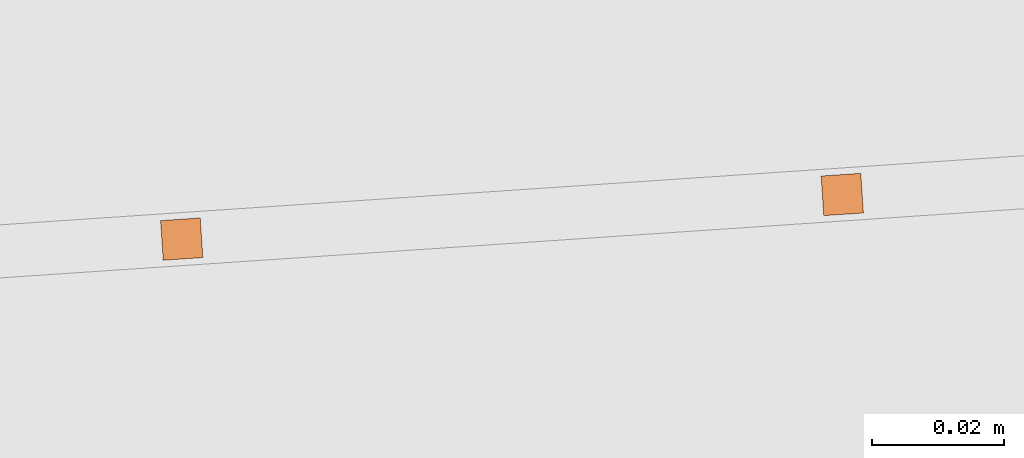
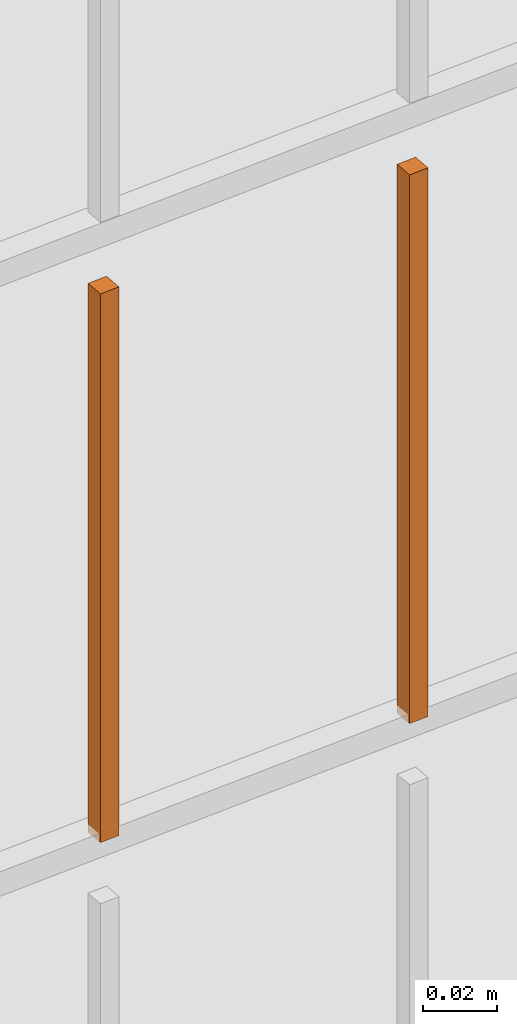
# One storey, part 137 of 1809: 2 proxies, 1 element without a shape of its own.
"""IFC2X3 building model written with IfcOpenShell, lengths in millimetres."""

from ifc_helpers import new_model, entity, si_unit, converted_unit, derived_unit, money_unit, direction, frame, origin_with_axes, place, context, subcontext, project, spatial, faceted_brep, source, transform, mapped, material, type_object, element, aggregate, save


model = new_model("IFC2X3")

# Units and contexts
model_context = context("Model", 3, precision=0.01, world=origin_with_axes(), true_north=direction((0.0, 1.0)))
body_context = subcontext(model_context, "Body", "Model", "MODEL_VIEW")
ifc_project = project(units=[si_unit("LENGTHUNIT", "METRE", prefix="MILLI"), si_unit("AREAUNIT", "SQUARE_METRE"), si_unit("VOLUMEUNIT", "CUBIC_METRE"), converted_unit("PLANEANGLEUNIT", "DEGREE", entity("IfcPlaneAngleMeasure", 0.0174532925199), si_unit("PLANEANGLEUNIT", "RADIAN"), dimensions=[0, 0, 0, 0, 0, 0, 0]), si_unit("SOLIDANGLEUNIT", "STERADIAN"), money_unit("EUR"), converted_unit("TIMEUNIT", "Year", entity("IfcTimeMeasure", 31556926.0), si_unit("TIMEUNIT", "SECOND"), dimensions=[0, 0, 1, 0, 0, 0, 0]), si_unit("MASSUNIT", "GRAM", prefix="KILO"), si_unit("THERMODYNAMICTEMPERATUREUNIT", "DEGREE_CELSIUS"), si_unit("LUMINOUSINTENSITYUNIT", "LUMEN"), si_unit("ENERGYUNIT", "JOULE", prefix="MEGA"), derived_unit("THERMALCONDUCTANCEUNIT", [(si_unit("POWERUNIT", "WATT"), 1), (si_unit("LENGTHUNIT", "METRE"), -1), (si_unit("THERMODYNAMICTEMPERATUREUNIT", "KELVIN"), -1)]), derived_unit("SPECIFICHEATCAPACITYUNIT", [(si_unit("ENERGYUNIT", "JOULE"), 1), (si_unit("MASSUNIT", "GRAM", prefix="KILO"), -1), (si_unit("THERMODYNAMICTEMPERATUREUNIT", "KELVIN"), -1)]), derived_unit("MASSDENSITYUNIT", [(si_unit("MASSUNIT", "GRAM", prefix="KILO"), 1), (si_unit("VOLUMEUNIT", "CUBIC_METRE"), -1)])], contexts=[model_context])

# Site, building, storey
site_placement = place(None, origin_with_axes())
site = spatial("IfcSite", under=ifc_project, at=site_placement, Name="Politse- ja Piirivalveameti ning Päästeameti ühishoone", CompositionType="ELEMENT")
building_placement = place(site_placement, origin_with_axes())
building = spatial("IfcBuilding", under=site, at=building_placement, Name="Politse- ja Piirivalveameti ning Päästeameti ühishoone", CompositionType="ELEMENT")
storey_placement = place(building_placement, origin_with_axes())
storey = spatial("IfcBuildingStorey", under=building, at=storey_placement, Name="Esimene korrus", CompositionType="ELEMENT", Elevation=0.0)

# Proxies
building_element_proxy_type_1 = type_object("IfcBuildingElementProxyType", Name="Railing Type", PredefinedType="NOTDEFINED")
proxy_1_placement = place(storey_placement, frame((89252.001212, -29183.4766571, 203.661247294), z_axis=(0.0, 0.0, 1.0), x_axis=(1.0, 0.0, 0.0)))
proxy_1 = element("IfcBuildingElementProxy", 1, at=proxy_1_placement, inside=storey, type_object=building_element_proxy_type_1, Name="PIIRDEAED")
ifc_material = material(Name="ET-03_Raud")
building_element_proxy_type_2 = type_object("IfcBuildingElementProxyType", Name="IfcBuildingElementProxy", PredefinedType="NOTDEFINED")
shared_shape_1 = source(origin_with_axes(), body_context, "Body", "Brep", [
    faceted_brep([(3.0, 3.0, -0.000752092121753), (-3.0, 3.0, -0.000752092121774), (-3.0, 3.0, 179.99926046), (3.0, 3.0, 179.99926046), (3.0, -3.0, 0.000752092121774), (-3.0, -3.0, 0.000752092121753), (-3.0, -3.0, 180.000764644), (3.0, -3.0, 180.000764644)], [[[0, 1, 2, 3]], [[0, 4, 5, 1]], [[1, 5, 6, 2]], [[3, 2, 6, 7]], [[4, 0, 3, 7]], [[5, 4, 7, 6]]]),
])
proxy_2_placement = place(proxy_1_placement, frame((-89123.606445, -23317.7380366, 1804.84041942), z_axis=(0.0, 0.0, 1.0), x_axis=(1.0, 0.0, 0.0)))
proxy_2 = element("IfcBuildingElementProxy", 2, at=proxy_2_placement, type_object=building_element_proxy_type_2, material=ifc_material, Name="BALUSTER - 001", context=body_context, shape_type="MappedRepresentation", body=[
    mapped(shared_shape_1, transform((0.0, 0.0, 0.0), x_axis=(-0.0673926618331, 0.997726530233, 0.0), y_axis=(-0.997726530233, -0.0673926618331, 0.0), z_axis=(0.0, 0.0, 1.0))),
])
shared_shape_2 = source(origin_with_axes(), body_context, "Body", "Brep", [
    faceted_brep([(3.0, 3.0, -0.000752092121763), (-3.0, 3.0, -0.000752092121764), (-3.0, 3.0, 179.99926046), (3.0, 3.0, 179.99926046), (3.0, -3.0, 0.000752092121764), (-3.0, -3.0, 0.000752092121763), (-3.0, -3.0, 180.000764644), (3.0, -3.0, 180.000764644)], [[[0, 1, 2, 3]], [[0, 4, 5, 1]], [[1, 5, 6, 2]], [[3, 2, 6, 7]], [[4, 0, 3, 7]], [[5, 4, 7, 6]]]),
])
proxy_3_placement = place(proxy_1_placement, frame((-89023.833792, -23310.9987704, 1804.86548915), z_axis=(0.0, 0.0, 1.0), x_axis=(1.0, 0.0, 0.0)))
proxy_3 = element("IfcBuildingElementProxy", 3, at=proxy_3_placement, type_object=building_element_proxy_type_2, material=ifc_material, Name="BALUSTER - 001", context=body_context, shape_type="MappedRepresentation", body=[
    mapped(shared_shape_2, transform((0.0, 0.0, 0.0), x_axis=(-0.0673926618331, 0.997726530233, 0.0), y_axis=(-0.997726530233, -0.0673926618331, 0.0), z_axis=(0.0, 0.0, 1.0))),
])
aggregate(proxy_1, [proxy_3, proxy_2])

save(model, "model.ifc")
